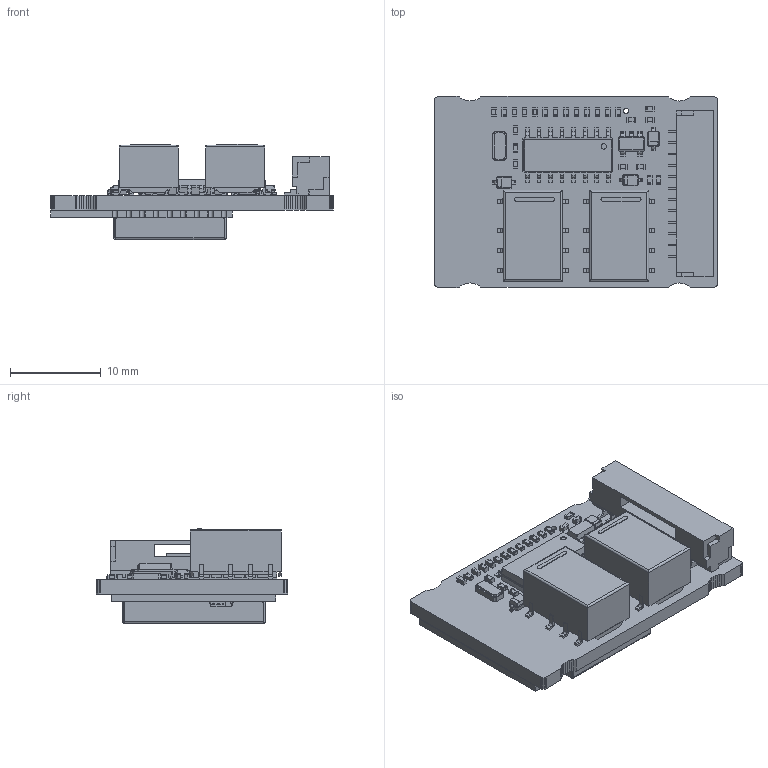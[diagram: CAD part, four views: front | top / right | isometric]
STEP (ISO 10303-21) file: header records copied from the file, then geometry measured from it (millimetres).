
FILE_DESCRIPTION(('KiCad electronic assembly'),'2;1');
FILE_NAME('uplc.step','2024-02-20T13:34:07',('Pcbnew'),('Kicad'), 'Open CASCADE STEP processor 7.6','KiCad to STEP converter','Unknown' );
FILE_SCHEMA(('AUTOMOTIVE_DESIGN { 1 0 10303 214 1 1 1 1 }'));
Length unit declared in the file: millimetre
Products named in the file (20): uplc 1; R_0402_1005Metric; SOLID; JST_GH_SM12B-GHS-TB_1x12-1MP_P1.25mm_Horizontal; Relay_DPDT_Omron_G6K-2F-Y; C_0402_1005Metric; D_SOD-323; SOT-23-5; Crystal_SMD_3215-2Pin_3.2x1.5mm; SOIC-16_3.9x9.9mm_P1.27mm; ESP32-C3-WROOM-02; COMPOUND; _autosave-uplc PCB
Assembly tree (43 placements, depth 3):
  uplc 1
    R_0402_1005Metric  x13
      SOLID
    JST_GH_SM12B-GHS-TB_1x12-1MP_P1.25mm_Horizontal
      SOLID
    Relay_DPDT_Omron_G6K-2F-Y  x2
      SOLID
    C_0402_1005Metric  x10
      SOLID
    D_SOD-323  x3
      SOLID
    SOT-23-5
      SOLID
    Crystal_SMD_3215-2Pin_3.2x1.5mm
      SOLID
    SOIC-16_3.9x9.9mm_P1.27mm
      SOLID
    ESP32-C3-WROOM-02
      COMPOUND
    _autosave-uplc PCB
Bounding box: 31.1 x 21 x 10.46 mm (x, y, z)
Volume: 2318.7 mm3; surface area: 4953.8 mm2
Topology: 549 solids, 550 shells, 6033 faces, 13807 edges, 8876 vertices
Faces by surface type: plane 3997, cylinder 1719, bspline 201, sphere 112, torus 4
Full cylindrical faces by diameter (mm): 0.6 x3
Entity records: 318601 total; most frequent: CARTESIAN_POINT 66406, DIRECTION 45954, LINE 28487, VECTOR 28487, ORIENTED_EDGE 23234, PCURVE 23234, DEFINITIONAL_REPRESENTATION 23234, EDGE_CURVE 11617
